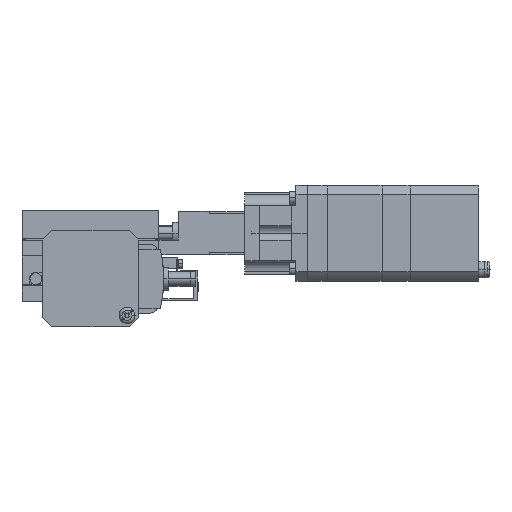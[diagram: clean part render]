
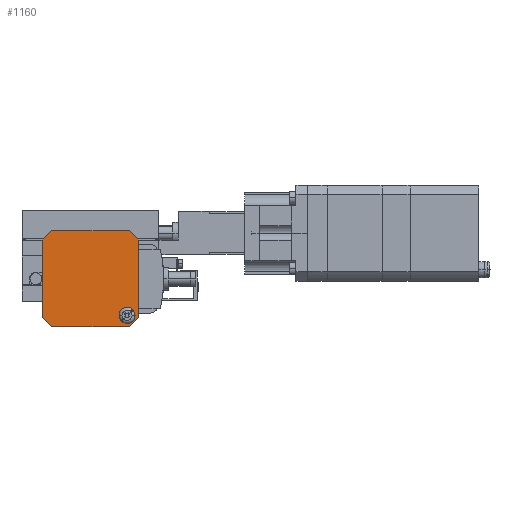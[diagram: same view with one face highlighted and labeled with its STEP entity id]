
A CAD part, left-side view. The second image highlights one B-rep face of the part: STEP entity #1160.
In plain terms, the highlighted planar face has unit normal (-1, 0, 0).
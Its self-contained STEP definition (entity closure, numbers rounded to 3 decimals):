
#1160=ADVANCED_FACE('',(#3179,#3180),#3181,.T.);
#3179=FACE_BOUND('',#6141,.T.);
#3180=FACE_OUTER_BOUND('',#6142,.T.);
#3181=PLANE('',#6143);
#6141=EDGE_LOOP('',(#12350,#12351));
#6142=EDGE_LOOP('',(#12352,#12353,#12354,#12355,#12356,#12357,#12358,#12359));
#6143=AXIS2_PLACEMENT_3D('',#12360,#12361,#12362);
#12350=ORIENTED_EDGE('',*,*,#20449,.F.);
#12351=ORIENTED_EDGE('',*,*,#20433,.F.);
#12352=ORIENTED_EDGE('',*,*,#20451,.T.);
#12353=ORIENTED_EDGE('',*,*,#20452,.T.);
#12354=ORIENTED_EDGE('',*,*,#20453,.T.);
#12355=ORIENTED_EDGE('',*,*,#20454,.T.);
#12356=ORIENTED_EDGE('',*,*,#20455,.T.);
#12357=ORIENTED_EDGE('',*,*,#20456,.T.);
#12358=ORIENTED_EDGE('',*,*,#20457,.T.);
#12359=ORIENTED_EDGE('',*,*,#20458,.T.);
#12360=CARTESIAN_POINT('',(-170.,0.,10.));
#12361=DIRECTION('',(-1.0,0.,0.));
#12362=DIRECTION('',(0.,0.,-1.0));
#20433=EDGE_CURVE('',#24829,#24825,#24831,.T.);
#20449=EDGE_CURVE('',#24825,#24829,#24856,.T.);
#20451=EDGE_CURVE('',#24858,#24859,#24860,.T.);
#20452=EDGE_CURVE('',#24859,#24861,#24862,.T.);
#20453=EDGE_CURVE('',#24861,#24863,#24864,.T.);
#20454=EDGE_CURVE('',#24863,#24865,#24866,.T.);
#20455=EDGE_CURVE('',#24865,#24867,#24868,.T.);
#20456=EDGE_CURVE('',#24867,#24869,#24870,.T.);
#20457=EDGE_CURVE('',#24869,#24871,#24872,.T.);
#20458=EDGE_CURVE('',#24871,#24858,#24873,.T.);
#24825=VERTEX_POINT('',#31739);
#24829=VERTEX_POINT('',#31744);
#24831=CIRCLE('',#31747,3.5);
#24856=CIRCLE('',#31810,3.5);
#24858=VERTEX_POINT('',#31812);
#24859=VERTEX_POINT('',#31813);
#24860=LINE('',#31814,#31815);
#24861=VERTEX_POINT('',#31816);
#24862=CIRCLE('',#31817,27.);
#24863=VERTEX_POINT('',#31818);
#24864=LINE('',#31819,#31820);
#24865=VERTEX_POINT('',#31821);
#24866=CIRCLE('',#31822,27.);
#24867=VERTEX_POINT('',#31823);
#24868=LINE('',#31824,#31825);
#24869=VERTEX_POINT('',#31826);
#24870=CIRCLE('',#31827,27.);
#24871=VERTEX_POINT('',#31828);
#24872=LINE('',#31829,#31830);
#24873=CIRCLE('',#31831,27.0);
#31739=CARTESIAN_POINT('',(-170.,-12.5,-6.));
#31744=CARTESIAN_POINT('',(-170.,-19.5,-6.));
#31747=AXIS2_PLACEMENT_3D('',#39211,#39212,#39213);
#31810=AXIS2_PLACEMENT_3D('',#39238,#39239,#39240);
#31812=CARTESIAN_POINT('',(-170.,-21.,-6.971));
#31813=CARTESIAN_POINT('',(-170.,-21.,26.971));
#31814=CARTESIAN_POINT('',(-170.,-21.,-6.971));
#31815=VECTOR('',#39244,1000.0);
#31816=CARTESIAN_POINT('',(-170.,-16.971,31.));
#31817=AXIS2_PLACEMENT_3D('',#39245,#39246,#39247);
#31818=CARTESIAN_POINT('',(-170.,16.971,31.));
#31819=CARTESIAN_POINT('',(-170.,-16.971,31.));
#31820=VECTOR('',#39248,1000.0);
#31821=CARTESIAN_POINT('',(-170.,21.,26.971));
#31822=AXIS2_PLACEMENT_3D('',#39249,#39250,#39251);
#31823=CARTESIAN_POINT('',(-170.,21.,-6.971));
#31824=CARTESIAN_POINT('',(-170.,21.,26.971));
#31825=VECTOR('',#39252,1000.0);
#31826=CARTESIAN_POINT('',(-170.,16.971,-11.));
#31827=AXIS2_PLACEMENT_3D('',#39253,#39254,#39255);
#31828=CARTESIAN_POINT('',(-170.,-16.971,-11.));
#31829=CARTESIAN_POINT('',(-170.,16.971,-11.));
#31830=VECTOR('',#39256,1000.0);
#31831=AXIS2_PLACEMENT_3D('',#39257,#39258,#39259);
#39211=CARTESIAN_POINT('',(-170.,-16.,-6.));
#39212=DIRECTION('',(-1.0,0.,0.));
#39213=DIRECTION('',(0.,1.0,0.));
#39238=CARTESIAN_POINT('',(-170.,-16.,-6.));
#39239=DIRECTION('',(-1.0,0.,0.));
#39240=DIRECTION('',(0.,1.0,0.));
#39244=DIRECTION('',(0.,0.,1.0));
#39245=CARTESIAN_POINT('',(-170.,0.,10.));
#39246=DIRECTION('',(-1.0,0.,0.));
#39247=DIRECTION('',(0.,1.0,0.));
#39248=DIRECTION('',(0.,1.0,0.));
#39249=CARTESIAN_POINT('',(-170.,0.,10.));
#39250=DIRECTION('',(-1.0,0.,0.));
#39251=DIRECTION('',(0.,1.0,0.));
#39252=DIRECTION('',(0.,0.,-1.0));
#39253=CARTESIAN_POINT('',(-170.,0.,10.));
#39254=DIRECTION('',(-1.0,0.,0.));
#39255=DIRECTION('',(0.,1.0,0.));
#39256=DIRECTION('',(0.,-1.0,0.));
#39257=CARTESIAN_POINT('',(-170.,0.,10.));
#39258=DIRECTION('',(-1.0,0.,0.));
#39259=DIRECTION('',(0.,1.0,0.));
